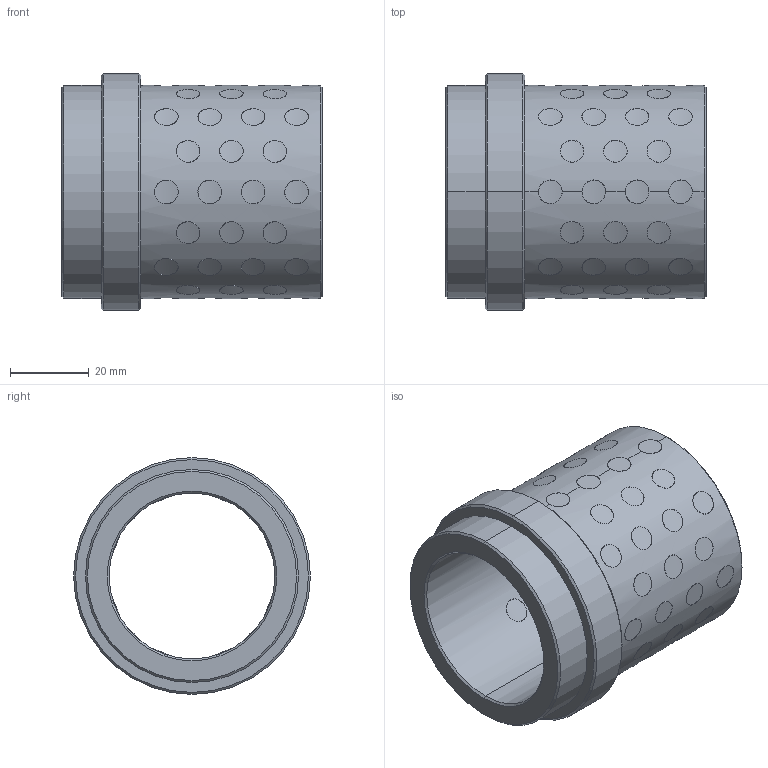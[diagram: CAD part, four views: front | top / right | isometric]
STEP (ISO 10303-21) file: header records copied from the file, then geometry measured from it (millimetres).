
FILE_DESCRIPTION((''),'2;1');
FILE_NAME('G31242056','2017-12-31T',('MANU'),(''),'PRO/ENGINEER BY PARAMETRIC TECHNOLOGY CORPORATION, 2012130','PRO/ENGINEER BY PARAMETRIC TECHNOLOGY CORPORATION, 2012130','');
FILE_SCHEMA(('CONFIG_CONTROL_DESIGN'));
Length unit declared in the file: millimetre
Products named in the file (1): G31242056
Bounding box: 66 x 60 x 60 mm (x, y, z)
Volume: 64806.9 mm3; surface area: 35301.3 mm2
Topology: 57 solids, 57 shells, 360 faces, 768 edges, 508 vertices
Faces by surface type: cylinder 344, cone 12, plane 4
Entity records: 17978 total; most frequent: CARTESIAN_POINT 10916, ORIENTED_EDGE 1536, DIRECTION 1036, EDGE_CURVE 768, VERTEX_POINT 508, B_SPLINE_CURVE_WITH_KNOTS 480, EDGE_LOOP 460, AXIS2_PLACEMENT_3D 388
